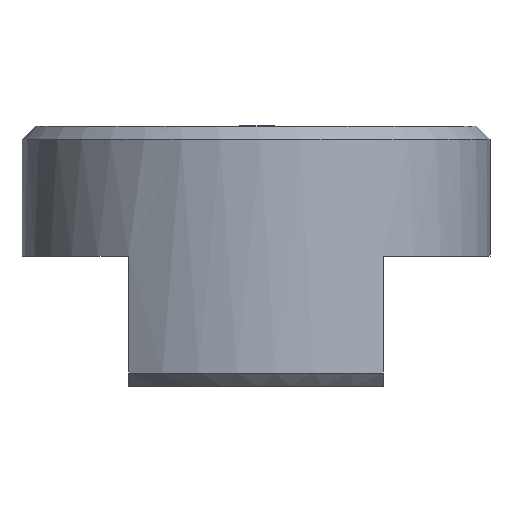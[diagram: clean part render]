
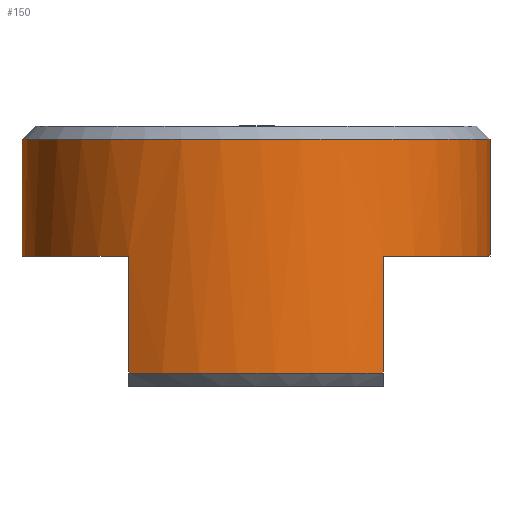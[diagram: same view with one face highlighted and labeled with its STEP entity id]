
A CAD part, left-side view. The second image highlights one B-rep face of the part: STEP entity #150.
In plain terms, the highlighted cylindrical face has radius 9 mm (diameter 18 mm), a full revolution.
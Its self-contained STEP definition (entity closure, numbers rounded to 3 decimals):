
#112=CYLINDRICAL_SURFACE('',#300,9.);
#122=LINE('',#396,#130);
#123=LINE('',#400,#131);
#124=LINE('',#404,#132);
#125=LINE('',#405,#133);
#130=VECTOR('',#331,1.);
#131=VECTOR('',#334,1.);
#132=VECTOR('',#337,1.);
#133=VECTOR('',#338,1.);
#138=FACE_BOUND('',#173,.T.);
#139=FACE_BOUND('',#174,.T.);
#150=ADVANCED_FACE('',(#138,#139),#112,.T.);
#173=EDGE_LOOP('',(#208,#209,#210,#211,#212,#213,#214,#215));
#174=EDGE_LOOP('',(#216));
#188=CIRCLE('',#290,9.);
#192=CIRCLE('',#296,9.);
#193=CIRCLE('',#297,9.);
#194=CIRCLE('',#298,9.);
#195=CIRCLE('',#299,9.);
#208=ORIENTED_EDGE('',*,*,#270,.F.);
#209=ORIENTED_EDGE('',*,*,#271,.F.);
#210=ORIENTED_EDGE('',*,*,#272,.T.);
#211=ORIENTED_EDGE('',*,*,#273,.T.);
#212=ORIENTED_EDGE('',*,*,#274,.T.);
#213=ORIENTED_EDGE('',*,*,#275,.T.);
#214=ORIENTED_EDGE('',*,*,#263,.T.);
#215=ORIENTED_EDGE('',*,*,#276,.F.);
#216=ORIENTED_EDGE('',*,*,#277,.T.);
#245=VERTEX_POINT('',#374);
#247=VERTEX_POINT('',#377);
#252=VERTEX_POINT('',#394);
#253=VERTEX_POINT('',#395);
#254=VERTEX_POINT('',#397);
#255=VERTEX_POINT('',#399);
#256=VERTEX_POINT('',#401);
#257=VERTEX_POINT('',#403);
#258=VERTEX_POINT('',#407);
#263=EDGE_CURVE('',#247,#245,#188,.T.);
#270=EDGE_CURVE('',#252,#253,#192,.T.);
#271=EDGE_CURVE('',#254,#252,#122,.T.);
#272=EDGE_CURVE('',#254,#255,#193,.T.);
#273=EDGE_CURVE('',#255,#256,#123,.T.);
#274=EDGE_CURVE('',#256,#257,#194,.T.);
#275=EDGE_CURVE('',#257,#247,#124,.T.);
#276=EDGE_CURVE('',#253,#245,#125,.T.);
#277=EDGE_CURVE('',#258,#258,#195,.T.);
#290=AXIS2_PLACEMENT_3D('',#376,#315,#316);
#296=AXIS2_PLACEMENT_3D('',#393,#329,#330);
#297=AXIS2_PLACEMENT_3D('',#398,#332,#333);
#298=AXIS2_PLACEMENT_3D('',#402,#335,#336);
#299=AXIS2_PLACEMENT_3D('',#406,#339,#340);
#300=AXIS2_PLACEMENT_3D('',#408,#341,#342);
#315=DIRECTION('',(0.,0.,1.));
#316=DIRECTION('',(0.,1.,0.));
#329=DIRECTION('',(0.,0.,-1.));
#330=DIRECTION('',(0.,-1.,0.));
#331=DIRECTION('',(0.,0.,1.));
#332=DIRECTION('',(0.,0.,1.));
#333=DIRECTION('',(0.,1.,0.));
#334=DIRECTION('',(0.,0.,1.));
#335=DIRECTION('',(0.,0.,1.));
#336=DIRECTION('',(0.,1.,0.));
#337=DIRECTION('',(0.,0.,-1.));
#338=DIRECTION('',(0.,0.,-1.));
#339=DIRECTION('',(0.,0.,-1.));
#340=DIRECTION('',(0.,-1.,0.));
#341=DIRECTION('',(0.,0.,-1.));
#342=DIRECTION('',(0.,1.,0.));
#374=CARTESIAN_POINT('',(-7.549,-4.9,0.5));
#376=CARTESIAN_POINT('',(0.,0.,0.5));
#377=CARTESIAN_POINT('',(-7.549,4.9,0.5));
#393=CARTESIAN_POINT('',(0.,0.,5.));
#394=CARTESIAN_POINT('',(7.549,-4.9,5.));
#395=CARTESIAN_POINT('',(-7.549,-4.9,5.));
#396=CARTESIAN_POINT('',(7.549,-4.9,0.));
#397=CARTESIAN_POINT('',(7.549,-4.9,0.5));
#398=CARTESIAN_POINT('',(0.,0.,0.5));
#399=CARTESIAN_POINT('',(7.549,4.9,0.5));
#400=CARTESIAN_POINT('',(7.549,4.9,0.));
#401=CARTESIAN_POINT('',(7.549,4.9,5.));
#402=CARTESIAN_POINT('',(0.,0.,5.));
#403=CARTESIAN_POINT('',(-7.549,4.9,5.));
#404=CARTESIAN_POINT('',(-7.549,4.9,0.));
#405=CARTESIAN_POINT('',(-7.549,-4.9,0.));
#406=CARTESIAN_POINT('',(0.,0.,9.5));
#407=CARTESIAN_POINT('',(0.,-9.,9.5));
#408=CARTESIAN_POINT('',(0.,0.,0.));
